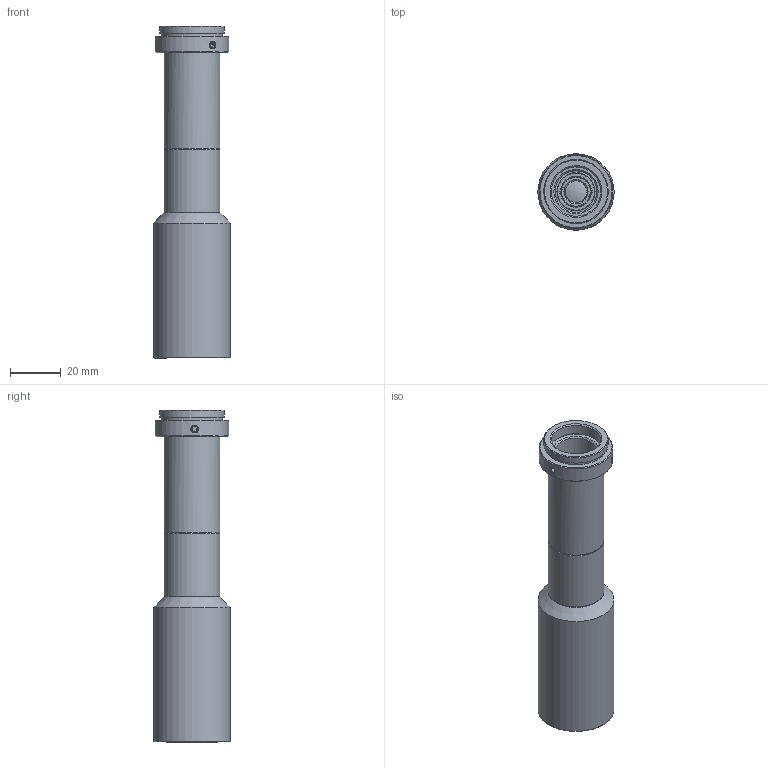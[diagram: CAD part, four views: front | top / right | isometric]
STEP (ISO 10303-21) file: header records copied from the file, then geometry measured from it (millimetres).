
FILE_DESCRIPTION(('STEP AP214'),'1');
FILE_NAME('RTK-08-M65.stp','2026-07-31T05:58:26',(' '),(' '),'Spatial InterOp 3D',' ',' ');
FILE_SCHEMA(('AUTOMOTIVE_DESIGN { 1 0 10303 214 1 1 1 1 }'));
Length unit declared in the file: metre
Products named in the file (2): RTK-08-M65; Component1
Assembly tree (1 placements, depth 2):
  RTK-08-M65
    Component1
Bounding box: 30 x 30 x 130.62 mm (x, y, z)
Volume: 34325.8 mm3; surface area: 23794.2 mm2
Topology: 1 solids, 11 shells, 211 faces, 464 edges, 308 vertices
Faces by surface type: plane 94, cylinder 56, cone 54, sphere 4, bspline 3
Full cylindrical faces by diameter (mm): 2.5 x6, 7 x1, 8 x1, 8.5 x1, 8.7 x1, 9.4 x1, 9.5 x1, 10 x3, 10.2 x1, 12 x1, 12.2 x2, 12.5 x1, 13.2 x1, 14 x3, 14.2 x1, 14.5 x1, 15 x1, 16.4 x1, 17.2 x2, 17.4 x1, 18.2 x2, 19 x4, 19.4 x1, 22 x4, 23 x1, 23.5 x1, 24 x1, 24.12 x1, 25 x2, 25.32 x1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
Entity records: 7055 total; most frequent: CARTESIAN_POINT 1263, DIRECTION 878, ORIENTED_EDGE 616, AXIS2_PLACEMENT_3D 386, EDGE_LOOP 370, EDGE_CURVE 308, FACE_OUTER_BOUND 268, VERTEX_POINT 263
